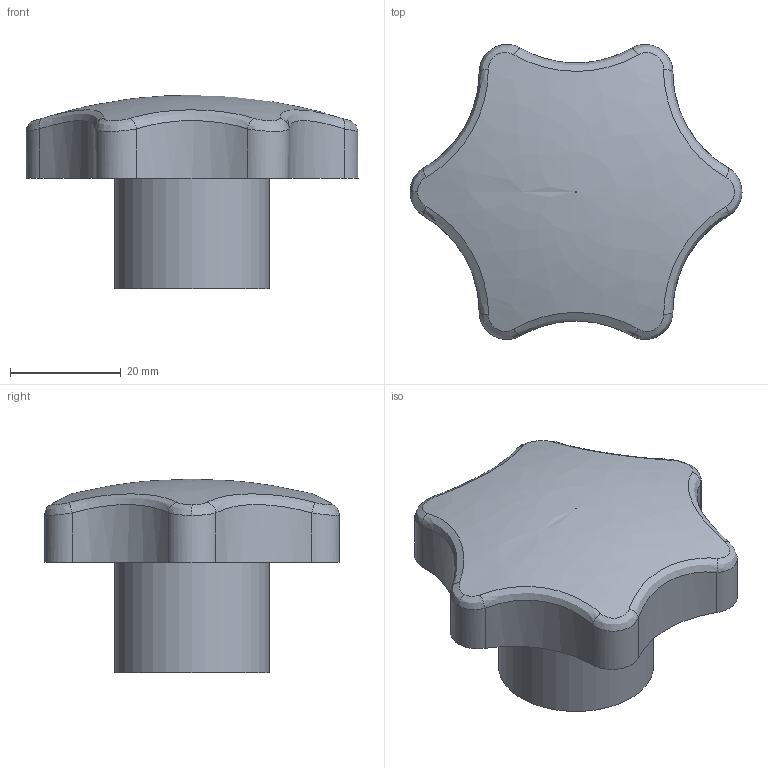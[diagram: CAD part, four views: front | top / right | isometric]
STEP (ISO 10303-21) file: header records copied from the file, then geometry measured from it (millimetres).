
FILE_DESCRIPTION( ('This file contains a STEP AP42 implementation' ,'as created by ZW3D STEP Interface translator.') ,'2;1' );
FILE_NAME( 'Rekojesc gwiazdowa z gwintem wewnetrznym 60.stp' ,'26 320. 74150', (''), ('ZWCAD Software Co.'), 'Version 1.0', 'ZW3D to STEP translator', '' );
FILE_SCHEMA(('AP242_MANAGED_MODEL_BASED_3D_ENGINEERING_MIM_LF { 1 0 10303 442 1 1 4 }'));
Length unit declared in the file: millimetre
Products named in the file (1): 0
Bounding box: 60 x 53.3 x 35 mm (x, y, z)
Volume: 39828.2 mm3; surface area: 10629.2 mm2
Topology: 2 solids, 2 shells, 39 faces, 88 edges, 53 vertices
Faces by surface type: cylinder 17, bspline 14, plane 4, cone 4
Full cylindrical faces by diameter (mm): 4.2 x2, 12 x2, 28 x1
Entity records: 2275 total; most frequent: CARTESIAN_POINT 1480, ORIENTED_EDGE 170, DIRECTION 123, EDGE_CURVE 85, VERTEX_POINT 53, AXIS2_PLACEMENT_3D 51, EDGE_LOOP 42, FACE_OUTER_BOUND 39
